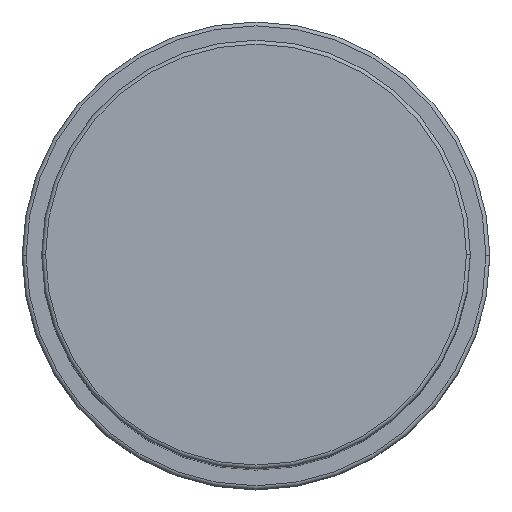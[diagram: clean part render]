
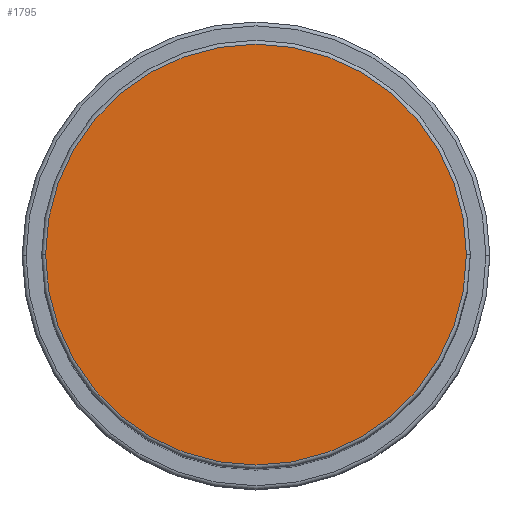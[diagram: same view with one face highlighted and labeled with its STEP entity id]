
A CAD part, top view. The second image highlights one B-rep face of the part: STEP entity #1795.
In plain terms, the highlighted planar face has unit normal (0, 0, 1).
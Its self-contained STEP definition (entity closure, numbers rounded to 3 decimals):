
#27 = CARTESIAN_POINT ( 'NONE',  ( 0., 0., 116. ) ) ;
#184 = DIRECTION ( 'NONE',  ( 0., 0., 1. ) ) ;
#324 = DIRECTION ( 'NONE',  ( 1., 0., 0. ) ) ;
#327 = DIRECTION ( 'NONE',  ( 0., 0., 1. ) ) ;
#334 = ORIENTED_EDGE ( 'NONE', *, *, #1117, .T. ) ;
#506 = CIRCLE ( 'NONE', #983, 27. ) ;
#818 = DIRECTION ( 'NONE',  ( 0., 0., 1. ) ) ;
#830 = VERTEX_POINT ( 'NONE', #1542 ) ;
#928 = VERTEX_POINT ( 'NONE', #1025 ) ;
#983 = AXIS2_PLACEMENT_3D ( 'NONE', #1597, #818, #1602 ) ;
#1025 = CARTESIAN_POINT ( 'NONE',  ( 27., 0., 116. ) ) ;
#1055 = FACE_OUTER_BOUND ( 'NONE', #1942, .T. ) ;
#1117 = EDGE_CURVE ( 'NONE', #928, #830, #1672, .T. ) ;
#1254 = CARTESIAN_POINT ( 'NONE',  ( 0., 0., 116. ) ) ;
#1257 = EDGE_CURVE ( 'NONE', #830, #928, #506, .T. ) ;
#1356 = PLANE ( 'NONE',  #1684 ) ;
#1515 = DIRECTION ( 'NONE',  ( 1., 0., 0. ) ) ;
#1523 = ORIENTED_EDGE ( 'NONE', *, *, #1257, .T. ) ;
#1542 = CARTESIAN_POINT ( 'NONE',  ( -27., 0., 116. ) ) ;
#1597 = CARTESIAN_POINT ( 'NONE',  ( 0., 0., 116. ) ) ;
#1602 = DIRECTION ( 'NONE',  ( 1., 0., 0. ) ) ;
#1660 = AXIS2_PLACEMENT_3D ( 'NONE', #1254, #327, #1515 ) ;
#1672 = CIRCLE ( 'NONE', #1660, 27. ) ;
#1684 = AXIS2_PLACEMENT_3D ( 'NONE', #27, #184, #324 ) ;
#1795 = ADVANCED_FACE ( 'NONE', ( #1055 ), #1356, .T. ) ;
#1942 = EDGE_LOOP ( 'NONE', ( #334, #1523 ) ) ;
